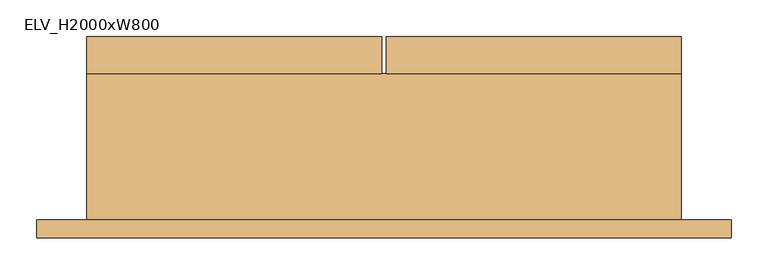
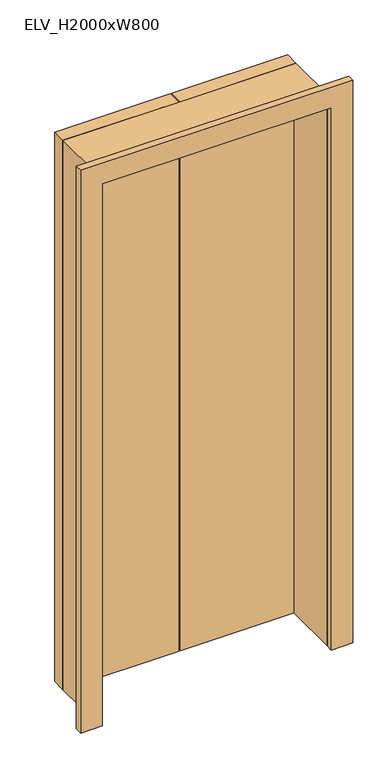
"""IFC4 building model written with IfcOpenShell, lengths in millimetres: door geometry, D_EV_壁付 : ELV_H2000xW800."""

from ifc_helpers import new_model, si_unit, frame, origin, origin_with_axes, place, context, project, spatial, polyline, outline, extrude, source, transform, mapped, element, save


def elv_h2000xw800_aa5de070(model_context):
    return source(origin(), model_context, "Body", "SweptSolid", [
        extrude(outline(polyline([(-102.3106443, 100.0), (-505.4856443, 100.0), (-505.4856443, 150.8), (-102.3106443, 150.8), (-102.3106443, 100.0)])), origin_with_axes(), (0.0, 0.0, 1.0), 2025.4),
        extrude(outline(polyline([(307.2143557, 100.0), (-95.9606443, 100.0), (-95.9606443, 150.8), (307.2143557, 150.8), (307.2143557, 100.0)])), origin_with_axes(), (0.0, 0.0, 1.0), 2025.4),
        extrude(outline(polyline([(0.0, -505.4856443), (0.0, -499.1356443), (2000.0, -499.1356443), (2000.0, 300.8643557), (0.0, 300.8643557), (0.0, 307.2143557), (2025.4, 307.2143557), (2025.4, -505.4856443), (0.0, -505.4856443)])), frame((0.0, -100.0, 0.0), z_axis=(0.0, 1.0, 0.0), x_axis=(0.0, 0.0, 1.0)), (0.0, 0.0, 1.0), 200.0),
        extrude(outline(polyline([(0.0, -574.1356443), (0.0, -499.1356443), (2000.0, -499.1356443), (2000.0, 300.8643557), (0.0, 300.8643557), (0.0, 375.8643557), (2075.0, 375.8643557), (2075.0, -574.1356443), (0.0, -574.1356443)])), frame((0.0, -125.0, 0.0), z_axis=(0.0, 1.0, 0.0), x_axis=(0.0, 0.0, 1.0)), (0.0, 0.0, 1.0), 25.0),
    ])


if __name__ == "__main__":
    model = new_model("IFC4")
    model_context = context("Model", 3, world=origin())
    ifc_project = project(units=[si_unit("LENGTHUNIT", "METRE", prefix="MILLI")], contexts=[model_context])
    site = spatial("IfcSite", under=ifc_project)
    building = spatial("IfcBuilding", under=site)
    placement = place(None, origin())
    elv_h2000xw800_shape = elv_h2000xw800_aa5de070(model_context)
    element("IfcDoor", 1, ObjectType="D_EV_壁付 : ELV_H2000xW800", at=placement, inside=building, context=model_context, shape_type="MappedRepresentation", body=[
        mapped(elv_h2000xw800_shape, transform((0.0, 0.0, 0.0), x_axis=(1.0, 0.0, 0.0), y_axis=(0.0, 1.0, 0.0), z_axis=(0.0, 0.0, 1.0))),
    ])
    save(model, "model.ifc")
